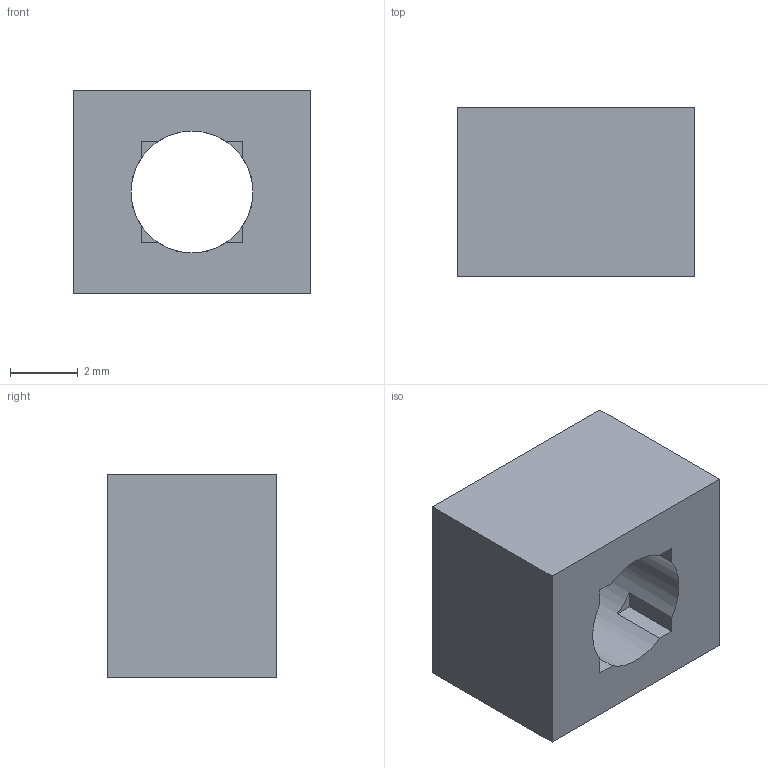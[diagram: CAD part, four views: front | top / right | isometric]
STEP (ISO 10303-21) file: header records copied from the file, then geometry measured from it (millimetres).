
FILE_DESCRIPTION(('FreeCAD Model'),'2;1');
FILE_NAME('Open CASCADE Shape Model','2026-11-20T08:25:39',('FreeCAD'),( 'FreeCAD'),'Open CASCADE STEP processor 7.8','FreeCAD','Unknown');
FILE_SCHEMA(('AUTOMOTIVE_DESIGN { 1 0 10303 214 1 1 1 1 }'));
Length unit declared in the file: millimetre
Products named in the file (1): Open CASCADE STEP translator 7.8 79
Bounding box: 7 x 5 x 6 mm (x, y, z)
Volume: 158.3 mm3; surface area: 252.3 mm2
Topology: 1 solids, 1 shells, 19 faces, 51 edges, 34 vertices
Faces by surface type: plane 18, cylinder 1
Full cylindrical faces by diameter (mm): 3.6 x1
Entity records: 609 total; most frequent: CARTESIAN_POINT 105, ORIENTED_EDGE 102, DIRECTION 101, EDGE_CURVE 51, LINE 41, VECTOR 41, VERTEX_POINT 34, AXIS2_PLACEMENT_3D 30
